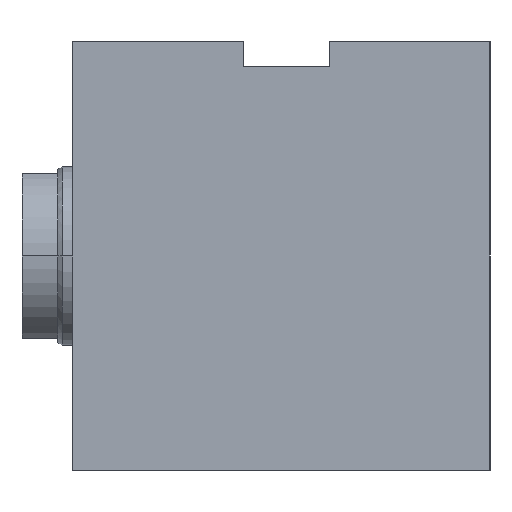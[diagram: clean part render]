
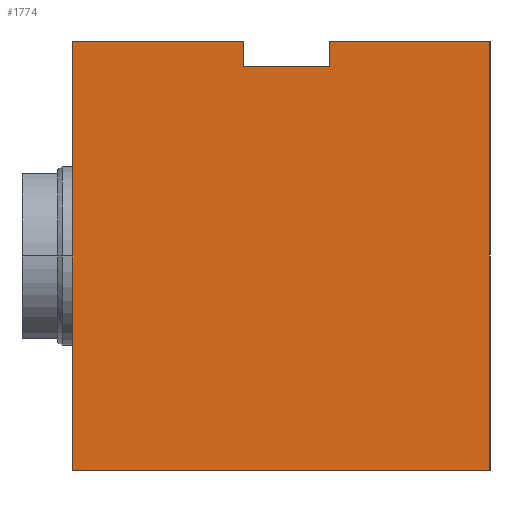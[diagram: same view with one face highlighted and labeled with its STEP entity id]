
A CAD part, left-side view. The second image highlights one B-rep face of the part: STEP entity #1774.
In plain terms, the highlighted planar face has unit normal (-1, 0, 0).
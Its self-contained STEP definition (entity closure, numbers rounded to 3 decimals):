
#14 = PLANE ( 'NONE',  #1945 ) ;
#19 = DIRECTION ( 'NONE',  ( 0., 0., 1. ) ) ;
#20 = ORIENTED_EDGE ( 'NONE', *, *, #374, .F. ) ;
#48 = VERTEX_POINT ( 'NONE', #1825 ) ;
#62 = CARTESIAN_POINT ( 'NONE',  ( -80., 117., -60. ) ) ;
#69 = FACE_OUTER_BOUND ( 'NONE', #1541, .T. ) ;
#107 = LINE ( 'NONE', #1539, #557 ) ;
#120 = EDGE_CURVE ( 'NONE', #521, #1030, #2297, .T. ) ;
#138 = EDGE_CURVE ( 'NONE', #334, #601, #2404, .T. ) ;
#155 = EDGE_CURVE ( 'NONE', #1928, #48, #2173, .T. ) ;
#213 = CARTESIAN_POINT ( 'NONE',  ( -80., 85., -60. ) ) ;
#282 = ORIENTED_EDGE ( 'NONE', *, *, #138, .T. ) ;
#334 = VERTEX_POINT ( 'NONE', #1769 ) ;
#374 = EDGE_CURVE ( 'NONE', #1030, #1114, #1854, .T. ) ;
#380 = ORIENTED_EDGE ( 'NONE', *, *, #120, .F. ) ;
#391 = CARTESIAN_POINT ( 'NONE',  ( -80., 69., 53. ) ) ;
#446 = DIRECTION ( 'NONE',  ( 0., 0., -1. ) ) ;
#458 = DIRECTION ( 'NONE',  ( 0., 0., 1. ) ) ;
#489 = CARTESIAN_POINT ( 'NONE',  ( -80., 45., 53. ) ) ;
#501 = CARTESIAN_POINT ( 'NONE',  ( -80., 85., 60. ) ) ;
#521 = VERTEX_POINT ( 'NONE', #391 ) ;
#557 = VECTOR ( 'NONE', #789, 1000. ) ;
#601 = VERTEX_POINT ( 'NONE', #1124 ) ;
#629 = CARTESIAN_POINT ( 'NONE',  ( -80., 69., 60. ) ) ;
#652 = LINE ( 'NONE', #1513, #1690 ) ;
#659 = CARTESIAN_POINT ( 'NONE',  ( -80., 0., -60. ) ) ;
#715 = LINE ( 'NONE', #501, #2237 ) ;
#746 = DIRECTION ( 'NONE',  ( 0., -1., 0. ) ) ;
#778 = CARTESIAN_POINT ( 'NONE',  ( -80., 45., 60. ) ) ;
#789 = DIRECTION ( 'NONE',  ( 0., -1., 0. ) ) ;
#863 = EDGE_CURVE ( 'NONE', #1114, #601, #715, .T. ) ;
#907 = DIRECTION ( 'NONE',  ( 0., -1., 0. ) ) ;
#1030 = VERTEX_POINT ( 'NONE', #489 ) ;
#1114 = VERTEX_POINT ( 'NONE', #778 ) ;
#1124 = CARTESIAN_POINT ( 'NONE',  ( -80., 0., 60. ) ) ;
#1240 = EDGE_CURVE ( 'NONE', #48, #2156, #652, .T. ) ;
#1375 = VECTOR ( 'NONE', #2234, 1000. ) ;
#1426 = DIRECTION ( 'NONE',  ( 0., -1., 0. ) ) ;
#1445 = ORIENTED_EDGE ( 'NONE', *, *, #2252, .T. ) ;
#1466 = VECTOR ( 'NONE', #19, 1000. ) ;
#1513 = CARTESIAN_POINT ( 'NONE',  ( -80., 85., 60. ) ) ;
#1537 = EDGE_CURVE ( 'NONE', #1928, #334, #107, .T. ) ;
#1539 = CARTESIAN_POINT ( 'NONE',  ( -80., 85., -60. ) ) ;
#1541 = EDGE_LOOP ( 'NONE', ( #2421, #20, #380, #1445, #2451, #1765, #1819, #282 ) ) ;
#1640 = CARTESIAN_POINT ( 'NONE',  ( -80., 69., 53. ) ) ;
#1690 = VECTOR ( 'NONE', #1426, 1000. ) ;
#1691 = CARTESIAN_POINT ( 'NONE',  ( -80., 69., 53. ) ) ;
#1765 = ORIENTED_EDGE ( 'NONE', *, *, #155, .F. ) ;
#1769 = CARTESIAN_POINT ( 'NONE',  ( -80., 0., -60. ) ) ;
#1774 = ADVANCED_FACE ( 'NONE', ( #69 ), #14, .F. ) ;
#1802 = DIRECTION ( 'NONE',  ( 1., 0., 0. ) ) ;
#1819 = ORIENTED_EDGE ( 'NONE', *, *, #1537, .T. ) ;
#1825 = CARTESIAN_POINT ( 'NONE',  ( -80., 117., 60. ) ) ;
#1826 = VECTOR ( 'NONE', #458, 1000. ) ;
#1854 = LINE ( 'NONE', #2368, #1466 ) ;
#1887 = VECTOR ( 'NONE', #1900, 1000. ) ;
#1900 = DIRECTION ( 'NONE',  ( 0., 0., 1. ) ) ;
#1928 = VERTEX_POINT ( 'NONE', #2153 ) ;
#1945 = AXIS2_PLACEMENT_3D ( 'NONE', #213, #1802, #446 ) ;
#2153 = CARTESIAN_POINT ( 'NONE',  ( -80., 117., -60. ) ) ;
#2156 = VERTEX_POINT ( 'NONE', #629 ) ;
#2173 = LINE ( 'NONE', #62, #1375 ) ;
#2234 = DIRECTION ( 'NONE',  ( 0., 0., 1. ) ) ;
#2235 = VECTOR ( 'NONE', #746, 1000. ) ;
#2237 = VECTOR ( 'NONE', #907, 1000. ) ;
#2252 = EDGE_CURVE ( 'NONE', #521, #2156, #2399, .T. ) ;
#2297 = LINE ( 'NONE', #1640, #2235 ) ;
#2368 = CARTESIAN_POINT ( 'NONE',  ( -80., 45., 53. ) ) ;
#2399 = LINE ( 'NONE', #1691, #1887 ) ;
#2404 = LINE ( 'NONE', #659, #1826 ) ;
#2421 = ORIENTED_EDGE ( 'NONE', *, *, #863, .F. ) ;
#2451 = ORIENTED_EDGE ( 'NONE', *, *, #1240, .F. ) ;
